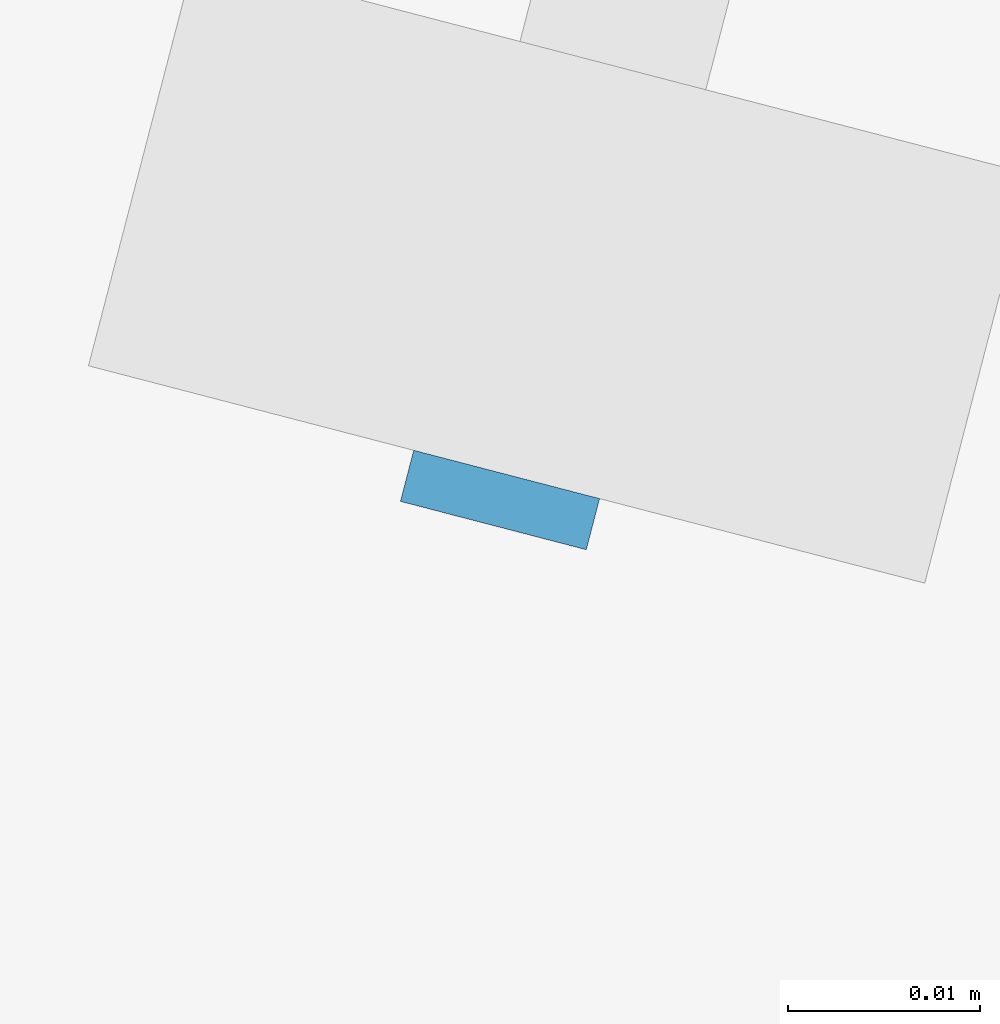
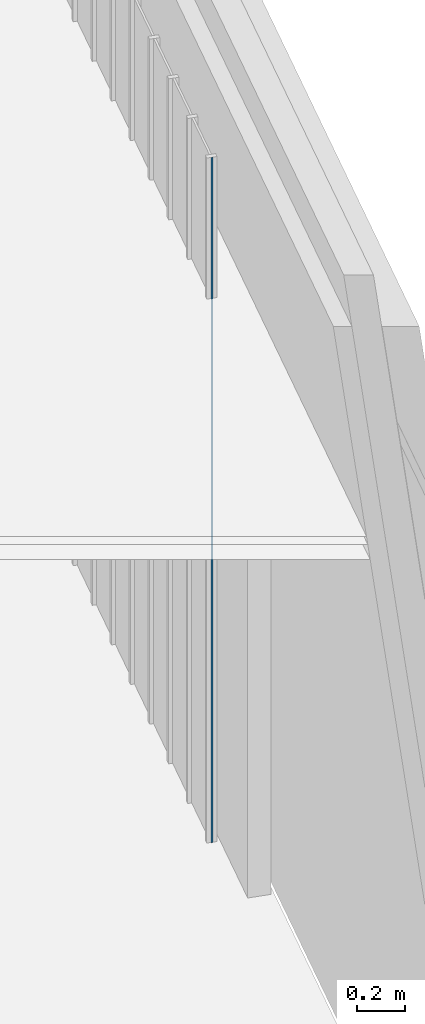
# One storey, part 6 of 9: 1 plate, 1 element without a shape of its own.
"""IFC2X3 building model written with IfcOpenShell, lengths in millimetres."""

from ifc_helpers import new_model, entity, si_unit, converted_unit, derived_unit, direction, frame, origin, origin_with_axes, place, context, subcontext, project, spatial, faceted_brep, material, type_object, element, aggregate, save


model = new_model("IFC2X3")

# Units and contexts
plan_context = context("Plan", 3, precision=1e-05, world=origin_with_axes())
model_context = context("Model", 3, precision=0.01, world=origin(), true_north=direction((6.12323399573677e-17, 1.0)))
body_context = subcontext(model_context, "Body", "Model", "MODEL_VIEW")
ifc_project = project(units=[converted_unit("PLANEANGLEUNIT", "DEGREE", entity("IfcPositiveLengthMeasure", 0.0174532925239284), si_unit("PLANEANGLEUNIT", "RADIAN"), dimensions=[0, 0, 0, 0, 0, 0, 0]), si_unit("AREAUNIT", "SQUARE_METRE"), si_unit("LENGTHUNIT", "METRE", prefix="MILLI"), si_unit("MASSUNIT", "GRAM", prefix="KILO"), si_unit("POWERUNIT", "WATT"), si_unit("PRESSUREUNIT", "PASCAL", prefix="KILO"), si_unit("FORCEUNIT", "NEWTON", prefix="KILO"), si_unit("ELECTRICVOLTAGEUNIT", "VOLT"), si_unit("ELECTRICCURRENTUNIT", "AMPERE"), si_unit("THERMODYNAMICTEMPERATUREUNIT", "DEGREE_CELSIUS"), si_unit("TIMEUNIT", "SECOND"), si_unit("VOLUMEUNIT", "CUBIC_METRE"), derived_unit("LINEARVELOCITYUNIT", [(si_unit("LENGTHUNIT", "METRE"), 1), (si_unit("TIMEUNIT", "SECOND"), -1)]), derived_unit("VOLUMETRICFLOWRATEUNIT", [(si_unit("VOLUMEUNIT", "CUBIC_METRE"), 1), (si_unit("TIMEUNIT", "SECOND"), -1)]), derived_unit("THERMALTRANSMITTANCEUNIT", [(si_unit("POWERUNIT", "WATT"), 1), (si_unit("THERMODYNAMICTEMPERATUREUNIT", "KELVIN"), -1), (si_unit("AREAUNIT", "SQUARE_METRE"), -1)]), derived_unit("SOUNDPRESSUREUNIT", [(si_unit("PRESSUREUNIT", "PASCAL"), 1)])], contexts=[model_context, plan_context])

# Site, building, storey
site_placement = place(None, frame((0.0, -2.21771188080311e-09, 0.0), z_axis=(0.0, 0.0, 1.0), x_axis=(0.266093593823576, -0.963947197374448, 0.0)))
site = spatial("IfcSite", under=ifc_project, at=site_placement, Name="ENZV", CompositionType="ELEMENT")
building_placement = place(site_placement, origin_with_axes())
building = spatial("IfcBuilding", under=site, at=building_placement, Name="ZV001", CompositionType="ELEMENT")
storey_placement = place(building_placement, frame((0.0, 0.0, 5100.0), z_axis=(0.0, 0.0, 1.0), x_axis=(1.0, 0.0, 0.0)))
storey = spatial("IfcBuildingStorey", under=building, at=storey_placement, Name="H01", CompositionType="ELEMENT", Elevation=5100.0)

# Curtain wall, plate
curtain_wall_type = type_object("IfcCurtainWallType", Name="Curtain Wall:Trespiler", PredefinedType="NOTDEFINED")
curtain_wall_placement = place(storey_placement, frame((0.0, 0.0, -5100.0), z_axis=(0.0, 0.0, 1.0), x_axis=(1.0, 0.0, 0.0)))
curtain_wall = element("IfcCurtainWall", 1, at=curtain_wall_placement, inside=storey, type_object=curtain_wall_type, Name="Curtain Wall:Trespiler", ObjectType="Curtain Wall:Trespiler")
ifc_material = material(Name="Glass")
plate_type = type_object("IfcPlateType", Name="System Panel:Glassfelt 10mm", PredefinedType="CURTAIN_PANEL", material=ifc_material)
plate_placement = place(curtain_wall_placement, frame((-169233.646935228, 386089.281978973, 5100.0), z_axis=(0.0, 0.0, 1.0), x_axis=(0.866025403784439, -0.5, 0.0)))
plate = element("IfcPlate", 2, at=plate_placement, type_object=plate_type, Name="System Panel:Glassfelt 10mm", ObjectType="System Panel:Glassfelt 10mm", context=body_context, shape_type="Brep", body=[
    faceted_brep([(-1.37473857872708, -5.0, 3500.0), (1.37473857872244, -5.0, 3500.0), (1.37473857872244, -5.0, 0.0), (-1.37473857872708, -5.0, 0.0), (1.37473857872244, 5.0, 3500.0), (1.37473857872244, 5.0, 0.0), (-1.37473857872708, 5.0, 3500.0), (-1.37473857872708, 5.0, 0.0)], [[[0, 1, 2, 3]], [[1, 4, 5, 2]], [[4, 6, 7, 5]], [[6, 0, 3, 7]], [[3, 2, 5, 7]], [[6, 4, 1, 0]]], orient=[[False], [False], [False], [False], [False], [False]]),
])
aggregate(curtain_wall, [plate])

save(model, "model.ifc")
